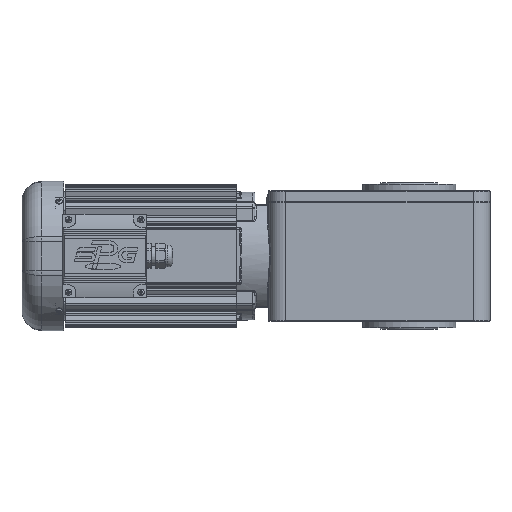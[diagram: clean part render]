
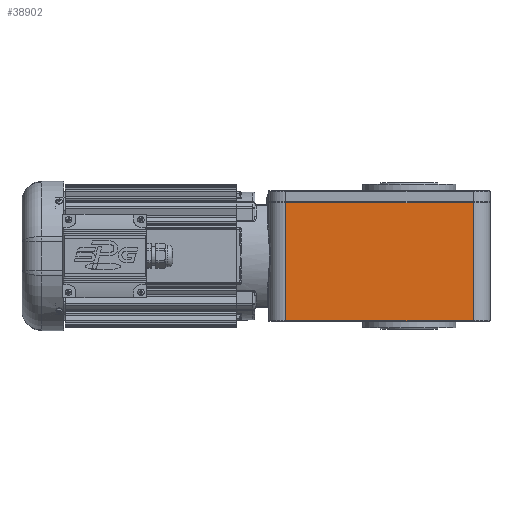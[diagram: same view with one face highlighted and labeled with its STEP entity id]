
A CAD part, front view. The second image highlights one B-rep face of the part: STEP entity #38902.
In plain terms, the highlighted planar face has unit normal (0, -1, 0).
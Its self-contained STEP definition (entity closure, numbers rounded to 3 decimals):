
#2892=LINE('',#68686,#5448);
#2912=LINE('',#68755,#5468);
#3031=LINE('',#71823,#5587);
#3188=LINE('',#73191,#5744);
#5448=VECTOR('',#51987,202.);
#5468=VECTOR('',#52061,202.);
#5587=VECTOR('',#52938,127.);
#5744=VECTOR('',#53561,127.);
#9157=FACE_OUTER_BOUND('',#11510,.T.);
#11510=EDGE_LOOP('',(#32947,#32948,#32949,#32950));
#16844=VERTEX_POINT('',#68680);
#16845=VERTEX_POINT('',#68684);
#16866=VERTEX_POINT('',#68749);
#16867=VERTEX_POINT('',#68753);
#21787=EDGE_CURVE('',#16845,#16844,#2892,.T.);
#21822=EDGE_CURVE('',#16867,#16866,#2912,.T.);
#22273=EDGE_CURVE('',#16845,#16866,#3031,.T.);
#22562=EDGE_CURVE('',#16844,#16867,#3188,.T.);
#32947=ORIENTED_EDGE('',*,*,#21787,.F.);
#32948=ORIENTED_EDGE('',*,*,#22273,.T.);
#32949=ORIENTED_EDGE('',*,*,#21822,.F.);
#32950=ORIENTED_EDGE('',*,*,#22562,.F.);
#34988=PLANE('',#43095);
#38902=ADVANCED_FACE('',(#9157),#34988,.T.);
#43095=AXIS2_PLACEMENT_3D('',#73192,#53562,#53563);
#51987=DIRECTION('',(1.,0.,0.));
#52061=DIRECTION('',(-1.,0.,0.));
#52938=DIRECTION('',(0.,0.,-1.));
#53561=DIRECTION('',(0.,0.,-1.));
#53562=DIRECTION('center_axis',(0.,-1.,0.));
#53563=DIRECTION('ref_axis',(0.,0.,-1.));
#68680=CARTESIAN_POINT('',(167.816,-128.43,57.5));
#68684=CARTESIAN_POINT('',(-34.184,-128.43,57.5));
#68686=CARTESIAN_POINT('',(-34.184,-128.43,57.5));
#68749=CARTESIAN_POINT('',(-34.184,-128.43,-69.5));
#68753=CARTESIAN_POINT('',(167.816,-128.43,-69.5));
#68755=CARTESIAN_POINT('',(167.816,-128.43,-69.5));
#71823=CARTESIAN_POINT('',(-34.184,-128.43,57.5));
#73191=CARTESIAN_POINT('',(167.816,-128.43,57.5));
#73192=CARTESIAN_POINT('Origin',(167.816,-128.43,0.));
